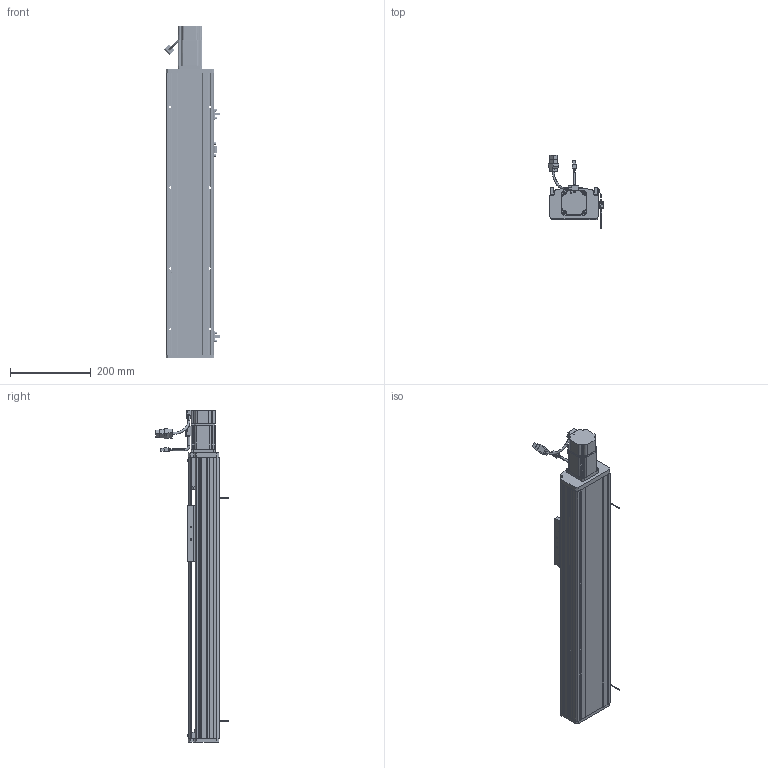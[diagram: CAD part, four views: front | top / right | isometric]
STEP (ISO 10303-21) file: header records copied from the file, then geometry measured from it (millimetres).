
FILE_DESCRIPTION (( 'STEP AP214' ), '1' );
FILE_NAME ('CTH120-450.STEP', '2019-11-20T02:40:05', ( '微软用户' ), ( '微软中国' ), 'SwSTEP 2.0', 'SolidWorks 2017', '' );
FILE_SCHEMA (( 'AUTOMOTIVE_DESIGN' ));
Length unit declared in the file: millimetre
Products named in the file (33): 噩砃EGH15-CA; 粣創揤啣; M3-L8囀鞠褒蹟佪; COL12B-粣遠; CT12耀郪-覜茼んえ; 坶踡蹟譫; EE-SX672-BR; 120耀郪-粣創釱; M4-L6半圆头内六角螺丝; 120耀郪-傷啣; M5-L20囀鞠褒蹟佪; 120模组-盖子_默认<按加工>; M5-L12囀鞠褒蹟佪; 120耀郪-侜督儂啣; 怢湛200W侜督萇儂ECMA-CX0602ES; SFH1605; 盓傅釱蚾饜极; 136蹟簽蟀諉輸; 6000; 120模组-移动座_默认<按加工>; 120耀郪-盓傅釱; SFH1605-450; M4-L16囀鞠褒蹟佪; 120模组-底座_默认<按加工>; EGH15-CA; EGH15_RAIL; CTH120-450; 珨极宒粣創釱; 遣喳蝶15x12x8; M4-L10囀鞠褒蹟佪; M4-L22囀鞠褒蹟佪; 7001-DB; 7001
Assembly tree (90 placements, depth 4):
  CTH120-450
    120模组-底座_默认<按加工>
    SFH1605-450
    120模组-移动座_默认<按加工>
    136蹟簽蟀諉輸
    SFH1605
    120耀郪-侜督儂啣
    120模组-盖子_默认<按加工>
    120耀郪-傷啣
    珨极宒粣創釱
      120耀郪-粣創釱
      坶踡蹟譫
      COL12B-粣遠  x2
      粣創揤啣
      7001-DB
        7001  x2
      M4-L22囀鞠褒蹟佪  x6
      M4-L10囀鞠褒蹟佪  x4
      遣喳蝶15x12x8
    EGH15_RAIL  x2
    EGH15-CA  x2
    M4-L16囀鞠褒蹟佪  x8
    M4-L10囀鞠褒蹟佪  x22
    盓傅釱蚾饜极
      120耀郪-盓傅釱
      6000
      遣喳蝶15x12x8  x2
      M4-L22囀鞠褒蹟佪  x2
    怢湛200W侜督萇儂ECMA-CX0602ES
    M5-L12囀鞠褒蹟佪  x3
    M5-L20囀鞠褒蹟佪  x4
    M4-L6半圆头内六角螺丝  x4
    EE-SX672-BR  x2
    CT12耀郪-覜茼んえ
    M3-L8囀鞠褒蹟佪  x4
    噩砃EGH15-CA  x2
Bounding box: 137.94 x 179.67 x 822 mm (x, y, z)
Volume: 3315772.1 mm3; surface area: 999859 mm2
Topology: 87 solids, 96 shells, 5162 faces, 13575 edges, 8677 vertices
Faces by surface type: plane 2813, cylinder 1486, cone 529, bspline 241, torus 81, sphere 12
Entity records: 108090 total; most frequent: CARTESIAN_POINT 31645, ORIENTED_EDGE 16032, DIRECTION 14579, EDGE_CURVE 8016, VERTEX_POINT 5259, AXIS2_PLACEMENT_3D 4946, LINE 4687, VECTOR 4687
